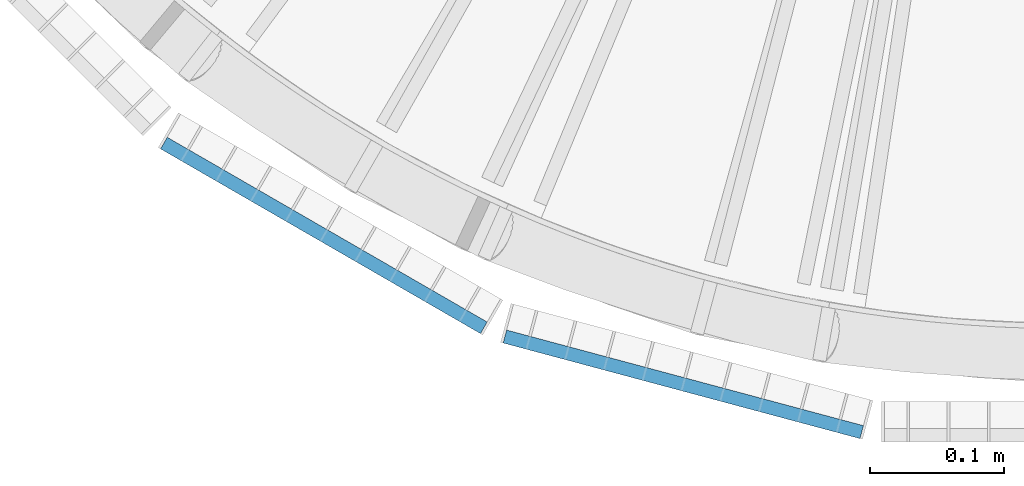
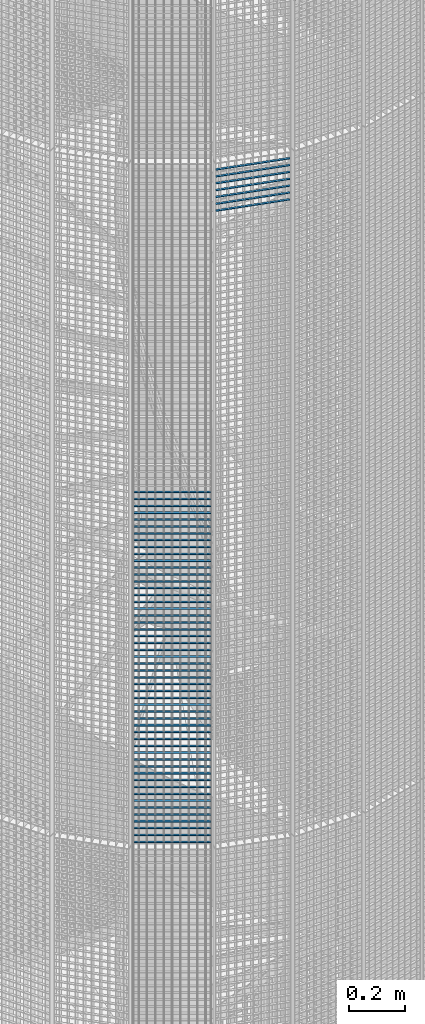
# One storey, part 351 of 1183: 59 beams, 2 elements without a shape of their own.
"""IFC2X3 building model written with IfcOpenShell, lengths in millimetres."""

from ifc_helpers import new_model, si_unit, frame, origin_with_axes, origin_2d_with_axis, place, context, subcontext, project, spatial, rectangle, extrude, material, type_object, element, aggregate, save


model = new_model("IFC2X3")

# Units and contexts
model_context = context("Model", 3, precision=1e-05, world=origin_with_axes())
body_context = subcontext(model_context, "Body", "Model", "MODEL_VIEW")
ifc_project = project(units=[si_unit("LENGTHUNIT", "METRE", prefix="MILLI"), si_unit("AREAUNIT", "SQUARE_METRE"), si_unit("VOLUMEUNIT", "CUBIC_METRE"), si_unit("MASSUNIT", "GRAM", prefix="KILO"), si_unit("TIMEUNIT", "SECOND"), si_unit("PLANEANGLEUNIT", "RADIAN"), si_unit("SOLIDANGLEUNIT", "STERADIAN"), si_unit("THERMODYNAMICTEMPERATUREUNIT", "DEGREE_CELSIUS"), si_unit("LUMINOUSINTENSITYUNIT", "LUMEN")], contexts=[model_context])

# Site, building, storey
site_placement = place(None, origin_with_axes())
site = spatial("IfcSite", under=ifc_project, at=site_placement, Name="Undefined", CompositionType="ELEMENT")
building_placement = place(site_placement, origin_with_axes())
building = spatial("IfcBuilding", under=site, at=building_placement, Name="Undefined", CompositionType="ELEMENT")
storey_placement = place(building_placement, origin_with_axes())
storey = spatial("IfcBuildingStorey", under=building, at=storey_placement, Name="Undefined", CompositionType="ELEMENT", Elevation=0.0)

# Assembly, beams
assembly_1_placement = place(storey_placement, origin_with_axes())
assembly_1 = element("IfcElementAssembly", 1, at=assembly_1_placement, inside=storey, Name="BORDURE", AssemblyPlace="NOTDEFINED", PredefinedType="NOTDEFINED")
ifc_material = material(Name="STEEL/S235JR")
beam_type = type_object("IfcBeamType", Name="PL2*10", PredefinedType="NOTDEFINED")
beam_1_placement = place(assembly_1_placement, frame((21162.7680445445, -1033.29996828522, 13560.0), z_axis=(-0.49999999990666, -0.866025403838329, 0.0), x_axis=(-0.866025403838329, 0.499999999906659, 0.0)))
beam_1 = element("IfcBeam", 2, at=beam_1_placement, type_object=beam_type, material=ifc_material, Name="ENTRETOISE", context=body_context, shape_type="SweptSolid", body=[
    extrude(rectangle(XDim=2.0, YDim=10.0, at=origin_2d_with_axis()), frame((275.999999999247, 9.09494701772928e-13, 1.53210777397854e-14), z_axis=(-1.0, 0.0, 0.0), x_axis=(0.0, -1.0, 0.0)), (0.0, 0.0, 1.0), 276.0),
])
beam_2_placement = place(assembly_1_placement, frame((21162.7680445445, -1033.29996828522, 13530.0), z_axis=(-0.49999999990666, -0.866025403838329, 0.0), x_axis=(-0.866025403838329, 0.499999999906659, 0.0)))
beam_2 = element("IfcBeam", 3, at=beam_2_placement, type_object=beam_type, material=ifc_material, Name="ENTRETOISE", context=body_context, shape_type="SweptSolid", body=[
    extrude(rectangle(XDim=2.0, YDim=10.0, at=origin_2d_with_axis()), frame((275.999999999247, 9.09494701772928e-13, 1.53210777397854e-14), z_axis=(-1.0, 0.0, 0.0), x_axis=(0.0, -1.0, 0.0)), (0.0, 0.0, 1.0), 276.0),
])
beam_3_placement = place(assembly_1_placement, frame((21162.7680445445, -1033.29996828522, 13500.0), z_axis=(-0.49999999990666, -0.866025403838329, 0.0), x_axis=(-0.866025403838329, 0.499999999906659, 0.0)))
beam_3 = element("IfcBeam", 4, at=beam_3_placement, type_object=beam_type, material=ifc_material, Name="ENTRETOISE", context=body_context, shape_type="SweptSolid", body=[
    extrude(rectangle(XDim=2.0, YDim=10.0, at=origin_2d_with_axis()), frame((275.999999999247, 9.09494701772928e-13, 1.53210777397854e-14), z_axis=(-1.0, 0.0, 0.0), x_axis=(0.0, -1.0, 0.0)), (0.0, 0.0, 1.0), 276.0),
])
beam_4_placement = place(assembly_1_placement, frame((21162.7680445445, -1033.29996828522, 13470.0), z_axis=(-0.49999999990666, -0.866025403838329, 0.0), x_axis=(-0.866025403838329, 0.499999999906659, 0.0)))
beam_4 = element("IfcBeam", 5, at=beam_4_placement, type_object=beam_type, material=ifc_material, Name="ENTRETOISE", context=body_context, shape_type="SweptSolid", body=[
    extrude(rectangle(XDim=2.0, YDim=10.0, at=origin_2d_with_axis()), frame((275.999999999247, 9.09494701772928e-13, 1.53210777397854e-14), z_axis=(-1.0, 0.0, 0.0), x_axis=(0.0, -1.0, 0.0)), (0.0, 0.0, 1.0), 276.0),
])
beam_5_placement = place(assembly_1_placement, frame((21162.7680445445, -1033.29996828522, 13440.0), z_axis=(-0.49999999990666, -0.866025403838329, 0.0), x_axis=(-0.866025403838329, 0.499999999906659, 0.0)))
beam_5 = element("IfcBeam", 6, at=beam_5_placement, type_object=beam_type, material=ifc_material, Name="ENTRETOISE", context=body_context, shape_type="SweptSolid", body=[
    extrude(rectangle(XDim=2.0, YDim=10.0, at=origin_2d_with_axis()), frame((275.999999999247, 9.09494701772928e-13, 1.53210777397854e-14), z_axis=(-1.0, 0.0, 0.0), x_axis=(0.0, -1.0, 0.0)), (0.0, 0.0, 1.0), 276.0),
])
beam_6_placement = place(assembly_1_placement, frame((21162.7680445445, -1033.29996828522, 13410.0), z_axis=(-0.49999999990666, -0.866025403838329, 0.0), x_axis=(-0.866025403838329, 0.499999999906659, 0.0)))
beam_6 = element("IfcBeam", 7, at=beam_6_placement, type_object=beam_type, material=ifc_material, Name="ENTRETOISE", context=body_context, shape_type="SweptSolid", body=[
    extrude(rectangle(XDim=2.0, YDim=10.0, at=origin_2d_with_axis()), frame((275.999999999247, 9.09494701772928e-13, 1.53210777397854e-14), z_axis=(-1.0, 0.0, 0.0), x_axis=(0.0, -1.0, 0.0)), (0.0, 0.0, 1.0), 276.0),
])
beam_7_placement = place(assembly_1_placement, frame((21162.7680445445, -1033.29996828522, 13380.0), z_axis=(-0.49999999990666, -0.866025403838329, 0.0), x_axis=(-0.866025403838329, 0.499999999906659, 0.0)))
beam_7 = element("IfcBeam", 8, at=beam_7_placement, type_object=beam_type, material=ifc_material, Name="ENTRETOISE", context=body_context, shape_type="SweptSolid", body=[
    extrude(rectangle(XDim=2.0, YDim=10.0, at=origin_2d_with_axis()), frame((275.999999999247, 9.09494701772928e-13, 1.53210777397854e-14), z_axis=(-1.0, 0.0, 0.0), x_axis=(0.0, -1.0, 0.0)), (0.0, 0.0, 1.0), 276.0),
])
beam_8_placement = place(assembly_1_placement, frame((21162.7680445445, -1033.29996828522, 13350.0), z_axis=(-0.49999999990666, -0.866025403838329, 0.0), x_axis=(-0.866025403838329, 0.499999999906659, 0.0)))
beam_8 = element("IfcBeam", 9, at=beam_8_placement, type_object=beam_type, material=ifc_material, Name="ENTRETOISE", context=body_context, shape_type="SweptSolid", body=[
    extrude(rectangle(XDim=2.0, YDim=10.0, at=origin_2d_with_axis()), frame((275.999999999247, 9.09494701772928e-13, 1.53210777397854e-14), z_axis=(-1.0, 0.0, 0.0), x_axis=(0.0, -1.0, 0.0)), (0.0, 0.0, 1.0), 276.0),
])
beam_9_placement = place(assembly_1_placement, frame((21162.7680445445, -1033.29996828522, 13320.0), z_axis=(-0.49999999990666, -0.866025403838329, 0.0), x_axis=(-0.866025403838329, 0.499999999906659, 0.0)))
beam_9 = element("IfcBeam", 10, at=beam_9_placement, type_object=beam_type, material=ifc_material, Name="ENTRETOISE", context=body_context, shape_type="SweptSolid", body=[
    extrude(rectangle(XDim=2.0, YDim=10.0, at=origin_2d_with_axis()), frame((275.999999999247, 9.09494701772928e-13, 1.53210777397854e-14), z_axis=(-1.0, 0.0, 0.0), x_axis=(0.0, -1.0, 0.0)), (0.0, 0.0, 1.0), 276.0),
])
beam_10_placement = place(assembly_1_placement, frame((21162.7680445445, -1033.29996828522, 13290.0), z_axis=(-0.49999999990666, -0.866025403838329, 0.0), x_axis=(-0.866025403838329, 0.499999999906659, 0.0)))
beam_10 = element("IfcBeam", 11, at=beam_10_placement, type_object=beam_type, material=ifc_material, Name="ENTRETOISE", context=body_context, shape_type="SweptSolid", body=[
    extrude(rectangle(XDim=2.0, YDim=10.0, at=origin_2d_with_axis()), frame((275.999999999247, 9.09494701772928e-13, 1.53210777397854e-14), z_axis=(-1.0, 0.0, 0.0), x_axis=(0.0, -1.0, 0.0)), (0.0, 0.0, 1.0), 276.0),
])
beam_11_placement = place(assembly_1_placement, frame((21162.7680445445, -1033.29996828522, 13260.0), z_axis=(-0.49999999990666, -0.866025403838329, 0.0), x_axis=(-0.866025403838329, 0.499999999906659, 0.0)))
beam_11 = element("IfcBeam", 12, at=beam_11_placement, type_object=beam_type, material=ifc_material, Name="ENTRETOISE", context=body_context, shape_type="SweptSolid", body=[
    extrude(rectangle(XDim=2.0, YDim=10.0, at=origin_2d_with_axis()), frame((275.999999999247, 9.09494701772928e-13, 1.53210777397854e-14), z_axis=(-1.0, 0.0, 0.0), x_axis=(0.0, -1.0, 0.0)), (0.0, 0.0, 1.0), 276.0),
])
beam_12_placement = place(assembly_1_placement, frame((21162.7680445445, -1033.29996828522, 13230.0), z_axis=(-0.49999999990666, -0.866025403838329, 0.0), x_axis=(-0.866025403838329, 0.499999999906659, 0.0)))
beam_12 = element("IfcBeam", 13, at=beam_12_placement, type_object=beam_type, material=ifc_material, Name="ENTRETOISE", context=body_context, shape_type="SweptSolid", body=[
    extrude(rectangle(XDim=2.0, YDim=10.0, at=origin_2d_with_axis()), frame((275.999999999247, 9.09494701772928e-13, 1.53210777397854e-14), z_axis=(-1.0, 0.0, 0.0), x_axis=(0.0, -1.0, 0.0)), (0.0, 0.0, 1.0), 276.0),
])
beam_13_placement = place(assembly_1_placement, frame((21162.7680445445, -1033.29996828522, 13200.0), z_axis=(-0.49999999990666, -0.866025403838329, 0.0), x_axis=(-0.866025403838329, 0.499999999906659, 0.0)))
beam_13 = element("IfcBeam", 14, at=beam_13_placement, type_object=beam_type, material=ifc_material, Name="ENTRETOISE", context=body_context, shape_type="SweptSolid", body=[
    extrude(rectangle(XDim=2.0, YDim=10.0, at=origin_2d_with_axis()), frame((275.999999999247, 9.09494701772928e-13, 1.53210777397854e-14), z_axis=(-1.0, 0.0, 0.0), x_axis=(0.0, -1.0, 0.0)), (0.0, 0.0, 1.0), 276.0),
])
beam_14_placement = place(assembly_1_placement, frame((21162.7680445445, -1033.29996828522, 13170.0), z_axis=(-0.49999999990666, -0.866025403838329, 0.0), x_axis=(-0.866025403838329, 0.499999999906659, 0.0)))
beam_14 = element("IfcBeam", 15, at=beam_14_placement, type_object=beam_type, material=ifc_material, Name="ENTRETOISE", context=body_context, shape_type="SweptSolid", body=[
    extrude(rectangle(XDim=2.0, YDim=10.0, at=origin_2d_with_axis()), frame((275.999999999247, 9.09494701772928e-13, 1.53210777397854e-14), z_axis=(-1.0, 0.0, 0.0), x_axis=(0.0, -1.0, 0.0)), (0.0, 0.0, 1.0), 276.0),
])
beam_15_placement = place(assembly_1_placement, frame((21162.7680445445, -1033.29996828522, 13140.0), z_axis=(-0.49999999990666, -0.866025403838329, 0.0), x_axis=(-0.866025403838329, 0.499999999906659, 0.0)))
beam_15 = element("IfcBeam", 16, at=beam_15_placement, type_object=beam_type, material=ifc_material, Name="ENTRETOISE", context=body_context, shape_type="SweptSolid", body=[
    extrude(rectangle(XDim=2.0, YDim=10.0, at=origin_2d_with_axis()), frame((275.999999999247, 9.09494701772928e-13, 1.53210777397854e-14), z_axis=(-1.0, 0.0, 0.0), x_axis=(0.0, -1.0, 0.0)), (0.0, 0.0, 1.0), 276.0),
])
beam_16_placement = place(assembly_1_placement, frame((21162.7680445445, -1033.29996828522, 12720.0), z_axis=(-0.49999999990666, -0.866025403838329, 0.0), x_axis=(-0.866025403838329, 0.499999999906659, 0.0)))
beam_16 = element("IfcBeam", 17, at=beam_16_placement, type_object=beam_type, material=ifc_material, Name="ENTRETOISE", context=body_context, shape_type="SweptSolid", body=[
    extrude(rectangle(XDim=2.0, YDim=10.0, at=origin_2d_with_axis()), frame((275.999999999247, 9.09494701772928e-13, 1.53210777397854e-14), z_axis=(-1.0, 0.0, 0.0), x_axis=(0.0, -1.0, 0.0)), (0.0, 0.0, 1.0), 276.0),
])
beam_17_placement = place(assembly_1_placement, frame((21162.7680445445, -1033.29996828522, 12690.0), z_axis=(-0.49999999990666, -0.866025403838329, 0.0), x_axis=(-0.866025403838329, 0.499999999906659, 0.0)))
beam_17 = element("IfcBeam", 18, at=beam_17_placement, type_object=beam_type, material=ifc_material, Name="ENTRETOISE", context=body_context, shape_type="SweptSolid", body=[
    extrude(rectangle(XDim=2.0, YDim=10.0, at=origin_2d_with_axis()), frame((275.999999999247, 9.09494701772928e-13, 1.53210777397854e-14), z_axis=(-1.0, 0.0, 0.0), x_axis=(0.0, -1.0, 0.0)), (0.0, 0.0, 1.0), 276.0),
])
beam_18_placement = place(assembly_1_placement, frame((21162.7680445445, -1033.29996828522, 12750.0), z_axis=(-0.49999999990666, -0.866025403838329, 0.0), x_axis=(-0.866025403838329, 0.499999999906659, 0.0)))
beam_18 = element("IfcBeam", 19, at=beam_18_placement, type_object=beam_type, material=ifc_material, Name="ENTRETOISE", context=body_context, shape_type="SweptSolid", body=[
    extrude(rectangle(XDim=2.0, YDim=10.0, at=origin_2d_with_axis()), frame((275.999999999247, 9.09494701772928e-13, 1.53210777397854e-14), z_axis=(-1.0, 0.0, 0.0), x_axis=(0.0, -1.0, 0.0)), (0.0, 0.0, 1.0), 276.0),
])
beam_19_placement = place(assembly_1_placement, frame((21162.7680445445, -1033.29996828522, 12660.0), z_axis=(-0.49999999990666, -0.866025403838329, 0.0), x_axis=(-0.866025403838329, 0.499999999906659, 0.0)))
beam_19 = element("IfcBeam", 20, at=beam_19_placement, type_object=beam_type, material=ifc_material, Name="ENTRETOISE", context=body_context, shape_type="SweptSolid", body=[
    extrude(rectangle(XDim=2.0, YDim=10.0, at=origin_2d_with_axis()), frame((275.999999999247, 9.09494701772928e-13, 1.53210777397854e-14), z_axis=(-1.0, 0.0, 0.0), x_axis=(0.0, -1.0, 0.0)), (0.0, 0.0, 1.0), 276.0),
])
beam_20_placement = place(assembly_1_placement, frame((21162.7680445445, -1033.29996828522, 12630.0), z_axis=(-0.49999999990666, -0.866025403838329, 0.0), x_axis=(-0.866025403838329, 0.499999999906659, 0.0)))
beam_20 = element("IfcBeam", 21, at=beam_20_placement, type_object=beam_type, material=ifc_material, Name="ENTRETOISE", context=body_context, shape_type="SweptSolid", body=[
    extrude(rectangle(XDim=2.0, YDim=10.0, at=origin_2d_with_axis()), frame((275.999999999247, 9.09494701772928e-13, 1.53210777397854e-14), z_axis=(-1.0, 0.0, 0.0), x_axis=(0.0, -1.0, 0.0)), (0.0, 0.0, 1.0), 276.0),
])
beam_21_placement = place(assembly_1_placement, frame((21162.7680445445, -1033.29996828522, 12780.0), z_axis=(-0.49999999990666, -0.866025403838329, 0.0), x_axis=(-0.866025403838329, 0.499999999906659, 0.0)))
beam_21 = element("IfcBeam", 22, at=beam_21_placement, type_object=beam_type, material=ifc_material, Name="ENTRETOISE", context=body_context, shape_type="SweptSolid", body=[
    extrude(rectangle(XDim=2.0, YDim=10.0, at=origin_2d_with_axis()), frame((275.999999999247, 9.09494701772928e-13, 1.53210777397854e-14), z_axis=(-1.0, 0.0, 0.0), x_axis=(0.0, -1.0, 0.0)), (0.0, 0.0, 1.0), 276.0),
])
beam_22_placement = place(assembly_1_placement, frame((21162.7680445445, -1033.29996828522, 12600.0), z_axis=(-0.49999999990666, -0.866025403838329, 0.0), x_axis=(-0.866025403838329, 0.499999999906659, 0.0)))
beam_22 = element("IfcBeam", 23, at=beam_22_placement, type_object=beam_type, material=ifc_material, Name="ENTRETOISE", context=body_context, shape_type="SweptSolid", body=[
    extrude(rectangle(XDim=2.0, YDim=10.0, at=origin_2d_with_axis()), frame((275.999999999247, 9.09494701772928e-13, 1.53210777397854e-14), z_axis=(-1.0, 0.0, 0.0), x_axis=(0.0, -1.0, 0.0)), (0.0, 0.0, 1.0), 276.0),
])
beam_23_placement = place(assembly_1_placement, frame((21162.7680445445, -1033.29996828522, 12810.0), z_axis=(-0.49999999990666, -0.866025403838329, 0.0), x_axis=(-0.866025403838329, 0.499999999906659, 0.0)))
beam_23 = element("IfcBeam", 24, at=beam_23_placement, type_object=beam_type, material=ifc_material, Name="ENTRETOISE", context=body_context, shape_type="SweptSolid", body=[
    extrude(rectangle(XDim=2.0, YDim=10.0, at=origin_2d_with_axis()), frame((275.999999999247, 9.09494701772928e-13, 1.53210777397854e-14), z_axis=(-1.0, 0.0, 0.0), x_axis=(0.0, -1.0, 0.0)), (0.0, 0.0, 1.0), 276.0),
])
beam_24_placement = place(assembly_1_placement, frame((21162.7680445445, -1033.29996828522, 12570.0), z_axis=(-0.49999999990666, -0.866025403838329, 0.0), x_axis=(-0.866025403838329, 0.499999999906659, 0.0)))
beam_24 = element("IfcBeam", 25, at=beam_24_placement, type_object=beam_type, material=ifc_material, Name="ENTRETOISE", context=body_context, shape_type="SweptSolid", body=[
    extrude(rectangle(XDim=2.0, YDim=10.0, at=origin_2d_with_axis()), frame((275.999999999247, 9.09494701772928e-13, 1.53210777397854e-14), z_axis=(-1.0, 0.0, 0.0), x_axis=(0.0, -1.0, 0.0)), (0.0, 0.0, 1.0), 276.0),
])
beam_25_placement = place(assembly_1_placement, frame((21162.7680445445, -1033.29996828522, 12540.0), z_axis=(-0.49999999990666, -0.866025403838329, 0.0), x_axis=(-0.866025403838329, 0.499999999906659, 0.0)))
beam_25 = element("IfcBeam", 26, at=beam_25_placement, type_object=beam_type, material=ifc_material, Name="ENTRETOISE", context=body_context, shape_type="SweptSolid", body=[
    extrude(rectangle(XDim=2.0, YDim=10.0, at=origin_2d_with_axis()), frame((275.999999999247, 9.09494701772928e-13, 1.53210777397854e-14), z_axis=(-1.0, 0.0, 0.0), x_axis=(0.0, -1.0, 0.0)), (0.0, 0.0, 1.0), 276.0),
])
beam_26_placement = place(assembly_1_placement, frame((21162.7680445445, -1033.29996828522, 12840.0), z_axis=(-0.49999999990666, -0.866025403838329, 0.0), x_axis=(-0.866025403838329, 0.499999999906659, 0.0)))
beam_26 = element("IfcBeam", 27, at=beam_26_placement, type_object=beam_type, material=ifc_material, Name="ENTRETOISE", context=body_context, shape_type="SweptSolid", body=[
    extrude(rectangle(XDim=2.0, YDim=10.0, at=origin_2d_with_axis()), frame((275.999999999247, 9.09494701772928e-13, 1.53210777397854e-14), z_axis=(-1.0, 0.0, 0.0), x_axis=(0.0, -1.0, 0.0)), (0.0, 0.0, 1.0), 276.0),
])
beam_27_placement = place(assembly_1_placement, frame((21162.7680445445, -1033.29996828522, 12510.0), z_axis=(-0.49999999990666, -0.866025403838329, 0.0), x_axis=(-0.866025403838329, 0.499999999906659, 0.0)))
beam_27 = element("IfcBeam", 28, at=beam_27_placement, type_object=beam_type, material=ifc_material, Name="ENTRETOISE", context=body_context, shape_type="SweptSolid", body=[
    extrude(rectangle(XDim=2.0, YDim=10.0, at=origin_2d_with_axis()), frame((275.999999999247, 9.09494701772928e-13, 1.53210777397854e-14), z_axis=(-1.0, 0.0, 0.0), x_axis=(0.0, -1.0, 0.0)), (0.0, 0.0, 1.0), 276.0),
])
beam_28_placement = place(assembly_1_placement, frame((21162.7680445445, -1033.29996828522, 12480.0), z_axis=(-0.49999999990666, -0.866025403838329, 0.0), x_axis=(-0.866025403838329, 0.499999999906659, 0.0)))
beam_28 = element("IfcBeam", 29, at=beam_28_placement, type_object=beam_type, material=ifc_material, Name="ENTRETOISE", context=body_context, shape_type="SweptSolid", body=[
    extrude(rectangle(XDim=2.0, YDim=10.0, at=origin_2d_with_axis()), frame((275.999999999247, 9.09494701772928e-13, 1.53210777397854e-14), z_axis=(-1.0, 0.0, 0.0), x_axis=(0.0, -1.0, 0.0)), (0.0, 0.0, 1.0), 276.0),
])
beam_29_placement = place(assembly_1_placement, frame((21162.7680445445, -1033.29996828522, 12870.0), z_axis=(-0.49999999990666, -0.866025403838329, 0.0), x_axis=(-0.866025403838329, 0.499999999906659, 0.0)))
beam_29 = element("IfcBeam", 30, at=beam_29_placement, type_object=beam_type, material=ifc_material, Name="ENTRETOISE", context=body_context, shape_type="SweptSolid", body=[
    extrude(rectangle(XDim=2.0, YDim=10.0, at=origin_2d_with_axis()), frame((275.999999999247, 9.09494701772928e-13, 1.53210777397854e-14), z_axis=(-1.0, 0.0, 0.0), x_axis=(0.0, -1.0, 0.0)), (0.0, 0.0, 1.0), 276.0),
])
beam_30_placement = place(assembly_1_placement, frame((21162.7680445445, -1033.29996828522, 12450.0), z_axis=(-0.49999999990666, -0.866025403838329, 0.0), x_axis=(-0.866025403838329, 0.499999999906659, 0.0)))
beam_30 = element("IfcBeam", 31, at=beam_30_placement, type_object=beam_type, material=ifc_material, Name="ENTRETOISE", context=body_context, shape_type="SweptSolid", body=[
    extrude(rectangle(XDim=2.0, YDim=10.0, at=origin_2d_with_axis()), frame((275.999999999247, 9.09494701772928e-13, 1.53210777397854e-14), z_axis=(-1.0, 0.0, 0.0), x_axis=(0.0, -1.0, 0.0)), (0.0, 0.0, 1.0), 276.0),
])
beam_31_placement = place(assembly_1_placement, frame((21162.7680445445, -1033.29996828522, 12420.0), z_axis=(-0.49999999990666, -0.866025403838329, 0.0), x_axis=(-0.866025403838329, 0.499999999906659, 0.0)))
beam_31 = element("IfcBeam", 32, at=beam_31_placement, type_object=beam_type, material=ifc_material, Name="ENTRETOISE", context=body_context, shape_type="SweptSolid", body=[
    extrude(rectangle(XDim=2.0, YDim=10.0, at=origin_2d_with_axis()), frame((275.999999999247, 9.09494701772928e-13, 1.53210777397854e-14), z_axis=(-1.0, 0.0, 0.0), x_axis=(0.0, -1.0, 0.0)), (0.0, 0.0, 1.0), 276.0),
])
beam_32_placement = place(assembly_1_placement, frame((21162.7680445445, -1033.29996828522, 12900.0), z_axis=(-0.49999999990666, -0.866025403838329, 0.0), x_axis=(-0.866025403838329, 0.499999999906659, 0.0)))
beam_32 = element("IfcBeam", 33, at=beam_32_placement, type_object=beam_type, material=ifc_material, Name="ENTRETOISE", context=body_context, shape_type="SweptSolid", body=[
    extrude(rectangle(XDim=2.0, YDim=10.0, at=origin_2d_with_axis()), frame((275.999999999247, 9.09494701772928e-13, 1.53210777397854e-14), z_axis=(-1.0, 0.0, 0.0), x_axis=(0.0, -1.0, 0.0)), (0.0, 0.0, 1.0), 276.0),
])
beam_33_placement = place(assembly_1_placement, frame((21162.7680445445, -1033.29996828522, 12390.0), z_axis=(-0.49999999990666, -0.866025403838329, 0.0), x_axis=(-0.866025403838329, 0.499999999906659, 0.0)))
beam_33 = element("IfcBeam", 34, at=beam_33_placement, type_object=beam_type, material=ifc_material, Name="ENTRETOISE", context=body_context, shape_type="SweptSolid", body=[
    extrude(rectangle(XDim=2.0, YDim=10.0, at=origin_2d_with_axis()), frame((275.999999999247, 9.09494701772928e-13, 1.53210777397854e-14), z_axis=(-1.0, 0.0, 0.0), x_axis=(0.0, -1.0, 0.0)), (0.0, 0.0, 1.0), 276.0),
])
beam_34_placement = place(assembly_1_placement, frame((21162.7680445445, -1033.29996828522, 12930.0), z_axis=(-0.49999999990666, -0.866025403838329, 0.0), x_axis=(-0.866025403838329, 0.499999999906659, 0.0)))
beam_34 = element("IfcBeam", 35, at=beam_34_placement, type_object=beam_type, material=ifc_material, Name="ENTRETOISE", context=body_context, shape_type="SweptSolid", body=[
    extrude(rectangle(XDim=2.0, YDim=10.0, at=origin_2d_with_axis()), frame((275.999999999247, 9.09494701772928e-13, 1.53210777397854e-14), z_axis=(-1.0, 0.0, 0.0), x_axis=(0.0, -1.0, 0.0)), (0.0, 0.0, 1.0), 276.0),
])
beam_35_placement = place(assembly_1_placement, frame((21162.7680445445, -1033.29996828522, 12360.0), z_axis=(-0.49999999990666, -0.866025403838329, 0.0), x_axis=(-0.866025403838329, 0.499999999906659, 0.0)))
beam_35 = element("IfcBeam", 36, at=beam_35_placement, type_object=beam_type, material=ifc_material, Name="ENTRETOISE", context=body_context, shape_type="SweptSolid", body=[
    extrude(rectangle(XDim=2.0, YDim=10.0, at=origin_2d_with_axis()), frame((275.999999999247, 9.09494701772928e-13, 1.53210777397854e-14), z_axis=(-1.0, 0.0, 0.0), x_axis=(0.0, -1.0, 0.0)), (0.0, 0.0, 1.0), 276.0),
])
beam_36_placement = place(assembly_1_placement, frame((21162.7680445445, -1033.29996828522, 12330.0), z_axis=(-0.49999999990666, -0.866025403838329, 0.0), x_axis=(-0.866025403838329, 0.499999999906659, 0.0)))
beam_36 = element("IfcBeam", 37, at=beam_36_placement, type_object=beam_type, material=ifc_material, Name="ENTRETOISE", context=body_context, shape_type="SweptSolid", body=[
    extrude(rectangle(XDim=2.0, YDim=10.0, at=origin_2d_with_axis()), frame((275.999999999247, 9.09494701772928e-13, 1.53210777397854e-14), z_axis=(-1.0, 0.0, 0.0), x_axis=(0.0, -1.0, 0.0)), (0.0, 0.0, 1.0), 276.0),
])
beam_37_placement = place(assembly_1_placement, frame((21162.7680445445, -1033.29996828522, 12960.0), z_axis=(-0.49999999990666, -0.866025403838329, 0.0), x_axis=(-0.866025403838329, 0.499999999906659, 0.0)))
beam_37 = element("IfcBeam", 38, at=beam_37_placement, type_object=beam_type, material=ifc_material, Name="ENTRETOISE", context=body_context, shape_type="SweptSolid", body=[
    extrude(rectangle(XDim=2.0, YDim=10.0, at=origin_2d_with_axis()), frame((275.999999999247, 9.09494701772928e-13, 1.53210777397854e-14), z_axis=(-1.0, 0.0, 0.0), x_axis=(0.0, -1.0, 0.0)), (0.0, 0.0, 1.0), 276.0),
])
beam_38_placement = place(assembly_1_placement, frame((21162.7680445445, -1033.29996828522, 12300.0), z_axis=(-0.49999999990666, -0.866025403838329, 0.0), x_axis=(-0.866025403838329, 0.499999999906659, 0.0)))
beam_38 = element("IfcBeam", 39, at=beam_38_placement, type_object=beam_type, material=ifc_material, Name="ENTRETOISE", context=body_context, shape_type="SweptSolid", body=[
    extrude(rectangle(XDim=2.0, YDim=10.0, at=origin_2d_with_axis()), frame((275.999999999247, 9.09494701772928e-13, 1.53210777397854e-14), z_axis=(-1.0, 0.0, 0.0), x_axis=(0.0, -1.0, 0.0)), (0.0, 0.0, 1.0), 276.0),
])
beam_39_placement = place(assembly_1_placement, frame((21162.7680445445, -1033.29996828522, 12270.0), z_axis=(-0.49999999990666, -0.866025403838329, 0.0), x_axis=(-0.866025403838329, 0.499999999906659, 0.0)))
beam_39 = element("IfcBeam", 40, at=beam_39_placement, type_object=beam_type, material=ifc_material, Name="ENTRETOISE", context=body_context, shape_type="SweptSolid", body=[
    extrude(rectangle(XDim=2.0, YDim=10.0, at=origin_2d_with_axis()), frame((275.999999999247, 9.09494701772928e-13, 1.53210777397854e-14), z_axis=(-1.0, 0.0, 0.0), x_axis=(0.0, -1.0, 0.0)), (0.0, 0.0, 1.0), 276.0),
])
beam_40_placement = place(assembly_1_placement, frame((21162.7680445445, -1033.29996828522, 12990.0), z_axis=(-0.49999999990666, -0.866025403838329, 0.0), x_axis=(-0.866025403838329, 0.499999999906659, 0.0)))
beam_40 = element("IfcBeam", 41, at=beam_40_placement, type_object=beam_type, material=ifc_material, Name="ENTRETOISE", context=body_context, shape_type="SweptSolid", body=[
    extrude(rectangle(XDim=2.0, YDim=10.0, at=origin_2d_with_axis()), frame((275.999999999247, 9.09494701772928e-13, 1.53210777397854e-14), z_axis=(-1.0, 0.0, 0.0), x_axis=(0.0, -1.0, 0.0)), (0.0, 0.0, 1.0), 276.0),
])
beam_41_placement = place(assembly_1_placement, frame((21162.7680445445, -1033.29996828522, 12240.0), z_axis=(-0.49999999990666, -0.866025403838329, 0.0), x_axis=(-0.866025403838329, 0.499999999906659, 0.0)))
beam_41 = element("IfcBeam", 42, at=beam_41_placement, type_object=beam_type, material=ifc_material, Name="ENTRETOISE", context=body_context, shape_type="SweptSolid", body=[
    extrude(rectangle(XDim=2.0, YDim=10.0, at=origin_2d_with_axis()), frame((275.999999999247, 9.09494701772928e-13, 1.53210777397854e-14), z_axis=(-1.0, 0.0, 0.0), x_axis=(0.0, -1.0, 0.0)), (0.0, 0.0, 1.0), 276.0),
])
beam_42_placement = place(assembly_1_placement, frame((21162.7680445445, -1033.29996828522, 13020.0), z_axis=(-0.49999999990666, -0.866025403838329, 0.0), x_axis=(-0.866025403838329, 0.499999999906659, 0.0)))
beam_42 = element("IfcBeam", 43, at=beam_42_placement, type_object=beam_type, material=ifc_material, Name="ENTRETOISE", context=body_context, shape_type="SweptSolid", body=[
    extrude(rectangle(XDim=2.0, YDim=10.0, at=origin_2d_with_axis()), frame((275.999999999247, 9.09494701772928e-13, 1.53210777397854e-14), z_axis=(-1.0, 0.0, 0.0), x_axis=(0.0, -1.0, 0.0)), (0.0, 0.0, 1.0), 276.0),
])
beam_43_placement = place(assembly_1_placement, frame((21162.7680445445, -1033.29996828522, 12210.0), z_axis=(-0.49999999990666, -0.866025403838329, 0.0), x_axis=(-0.866025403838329, 0.499999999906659, 0.0)))
beam_43 = element("IfcBeam", 44, at=beam_43_placement, type_object=beam_type, material=ifc_material, Name="ENTRETOISE", context=body_context, shape_type="SweptSolid", body=[
    extrude(rectangle(XDim=2.0, YDim=10.0, at=origin_2d_with_axis()), frame((275.999999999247, 9.09494701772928e-13, 1.53210777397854e-14), z_axis=(-1.0, 0.0, 0.0), x_axis=(0.0, -1.0, 0.0)), (0.0, 0.0, 1.0), 276.0),
])
beam_44_placement = place(assembly_1_placement, frame((21162.7680445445, -1033.29996828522, 12180.0), z_axis=(-0.49999999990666, -0.866025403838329, 0.0), x_axis=(-0.866025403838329, 0.499999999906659, 0.0)))
beam_44 = element("IfcBeam", 45, at=beam_44_placement, type_object=beam_type, material=ifc_material, Name="ENTRETOISE", context=body_context, shape_type="SweptSolid", body=[
    extrude(rectangle(XDim=2.0, YDim=10.0, at=origin_2d_with_axis()), frame((275.999999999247, 9.09494701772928e-13, 1.53210777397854e-14), z_axis=(-1.0, 0.0, 0.0), x_axis=(0.0, -1.0, 0.0)), (0.0, 0.0, 1.0), 276.0),
])
beam_45_placement = place(assembly_1_placement, frame((21162.7680445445, -1033.29996828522, 13050.0), z_axis=(-0.49999999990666, -0.866025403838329, 0.0), x_axis=(-0.866025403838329, 0.499999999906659, 0.0)))
beam_45 = element("IfcBeam", 46, at=beam_45_placement, type_object=beam_type, material=ifc_material, Name="ENTRETOISE", context=body_context, shape_type="SweptSolid", body=[
    extrude(rectangle(XDim=2.0, YDim=10.0, at=origin_2d_with_axis()), frame((275.999999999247, 9.09494701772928e-13, 1.53210777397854e-14), z_axis=(-1.0, 0.0, 0.0), x_axis=(0.0, -1.0, 0.0)), (0.0, 0.0, 1.0), 276.0),
])
beam_46_placement = place(assembly_1_placement, frame((21162.7680445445, -1033.29996828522, 12150.0), z_axis=(-0.49999999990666, -0.866025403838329, 0.0), x_axis=(-0.866025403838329, 0.499999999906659, 0.0)))
beam_46 = element("IfcBeam", 47, at=beam_46_placement, type_object=beam_type, material=ifc_material, Name="ENTRETOISE", context=body_context, shape_type="SweptSolid", body=[
    extrude(rectangle(XDim=2.0, YDim=10.0, at=origin_2d_with_axis()), frame((275.999999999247, 9.09494701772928e-13, 1.53210777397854e-14), z_axis=(-1.0, 0.0, 0.0), x_axis=(0.0, -1.0, 0.0)), (0.0, 0.0, 1.0), 276.0),
])
beam_47_placement = place(assembly_1_placement, frame((21162.7680445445, -1033.29996828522, 12120.0), z_axis=(-0.49999999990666, -0.866025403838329, 0.0), x_axis=(-0.866025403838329, 0.499999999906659, 0.0)))
beam_47 = element("IfcBeam", 48, at=beam_47_placement, type_object=beam_type, material=ifc_material, Name="ENTRETOISE", context=body_context, shape_type="SweptSolid", body=[
    extrude(rectangle(XDim=2.0, YDim=10.0, at=origin_2d_with_axis()), frame((275.999999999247, 9.09494701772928e-13, 1.53210777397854e-14), z_axis=(-1.0, 0.0, 0.0), x_axis=(0.0, -1.0, 0.0)), (0.0, 0.0, 1.0), 276.0),
])
beam_48_placement = place(assembly_1_placement, frame((21162.7680445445, -1033.29996828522, 13080.0), z_axis=(-0.49999999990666, -0.866025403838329, 0.0), x_axis=(-0.866025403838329, 0.499999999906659, 0.0)))
beam_48 = element("IfcBeam", 49, at=beam_48_placement, type_object=beam_type, material=ifc_material, Name="ENTRETOISE", context=body_context, shape_type="SweptSolid", body=[
    extrude(rectangle(XDim=2.0, YDim=10.0, at=origin_2d_with_axis()), frame((275.999999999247, 9.09494701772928e-13, 1.53210777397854e-14), z_axis=(-1.0, 0.0, 0.0), x_axis=(0.0, -1.0, 0.0)), (0.0, 0.0, 1.0), 276.0),
])
beam_49_placement = place(assembly_1_placement, frame((21162.7680445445, -1033.29996828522, 12090.0), z_axis=(-0.49999999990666, -0.866025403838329, 0.0), x_axis=(-0.866025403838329, 0.499999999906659, 0.0)))
beam_49 = element("IfcBeam", 50, at=beam_49_placement, type_object=beam_type, material=ifc_material, Name="ENTRETOISE", context=body_context, shape_type="SweptSolid", body=[
    extrude(rectangle(XDim=2.0, YDim=10.0, at=origin_2d_with_axis()), frame((275.999999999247, 9.09494701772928e-13, 1.53210777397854e-14), z_axis=(-1.0, 0.0, 0.0), x_axis=(0.0, -1.0, 0.0)), (0.0, 0.0, 1.0), 276.0),
])
beam_50_placement = place(assembly_1_placement, frame((21162.7680445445, -1033.29996828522, 12060.0), z_axis=(-0.49999999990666, -0.866025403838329, 0.0), x_axis=(-0.866025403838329, 0.499999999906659, 0.0)))
beam_50 = element("IfcBeam", 51, at=beam_50_placement, type_object=beam_type, material=ifc_material, Name="ENTRETOISE", context=body_context, shape_type="SweptSolid", body=[
    extrude(rectangle(XDim=2.0, YDim=10.0, at=origin_2d_with_axis()), frame((275.999999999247, 9.09494701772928e-13, 1.53210777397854e-14), z_axis=(-1.0, 0.0, 0.0), x_axis=(0.0, -1.0, 0.0)), (0.0, 0.0, 1.0), 276.0),
])
beam_51_placement = place(assembly_1_placement, frame((21162.7680445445, -1033.29996828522, 13110.0), z_axis=(-0.49999999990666, -0.866025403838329, 0.0), x_axis=(-0.866025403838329, 0.499999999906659, 0.0)))
beam_51 = element("IfcBeam", 52, at=beam_51_placement, type_object=beam_type, material=ifc_material, Name="ENTRETOISE", context=body_context, shape_type="SweptSolid", body=[
    extrude(rectangle(XDim=2.0, YDim=10.0, at=origin_2d_with_axis()), frame((275.999999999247, 9.09494701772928e-13, 1.53210777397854e-14), z_axis=(-1.0, 0.0, 0.0), x_axis=(0.0, -1.0, 0.0)), (0.0, 0.0, 1.0), 276.0),
])
beam_52_placement = place(assembly_1_placement, frame((21162.7680445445, -1033.29996828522, 12030.0), z_axis=(-0.49999999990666, -0.866025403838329, 0.0), x_axis=(-0.866025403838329, 0.499999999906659, 0.0)))
beam_52 = element("IfcBeam", 53, at=beam_52_placement, type_object=beam_type, material=ifc_material, Name="ENTRETOISE", context=body_context, shape_type="SweptSolid", body=[
    extrude(rectangle(XDim=2.0, YDim=10.0, at=origin_2d_with_axis()), frame((275.999999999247, 9.09494701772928e-13, 1.53210777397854e-14), z_axis=(-1.0, 0.0, 0.0), x_axis=(0.0, -1.0, 0.0)), (0.0, 0.0, 1.0), 276.0),
])
aggregate(assembly_1, [beam_1, beam_2, beam_3, beam_4, beam_5, beam_6, beam_7, beam_8, beam_9, beam_10, beam_11, beam_12, beam_13, beam_14, beam_15, beam_16, beam_17, beam_18, beam_19, beam_20, beam_21, beam_22, beam_23, beam_24, beam_25, beam_26, beam_27, beam_28, beam_29, beam_30, beam_31, beam_32, beam_33, beam_34, beam_35, beam_36, beam_37, beam_38, beam_39, beam_40, beam_41, beam_42, beam_43, beam_44, beam_45, beam_46, beam_47, beam_48, beam_49, beam_50, beam_51, beam_52])

assembly_2_placement = place(storey_placement, origin_with_axes())
assembly_2 = element("IfcElementAssembly", 54, at=assembly_2_placement, inside=storey, Name="BORDURE", AssemblyPlace="NOTDEFINED", PredefinedType="NOTDEFINED")
beam_53_placement = place(assembly_2_placement, frame((21445.1040732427, -1111.25508286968, 14970.0), z_axis=(-0.258819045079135, -0.965925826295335, 0.0), x_axis=(-0.965925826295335, 0.258819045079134, 0.0)))
beam_53 = element("IfcBeam", 55, at=beam_53_placement, type_object=beam_type, material=ifc_material, Name="ENTRETOISE", context=body_context, shape_type="SweptSolid", body=[
    extrude(rectangle(XDim=2.0, YDim=10.0, at=origin_2d_with_axis()), frame((275.999999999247, 9.09494701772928e-13, 1.53210777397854e-14), z_axis=(-1.0, 0.0, 0.0), x_axis=(0.0, -1.0, 0.0)), (0.0, 0.0, 1.0), 276.0),
])
beam_54_placement = place(assembly_2_placement, frame((21445.1040732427, -1111.25508286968, 14940.0), z_axis=(-0.258819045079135, -0.965925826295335, 0.0), x_axis=(-0.965925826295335, 0.258819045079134, 0.0)))
beam_54 = element("IfcBeam", 56, at=beam_54_placement, type_object=beam_type, material=ifc_material, Name="ENTRETOISE", context=body_context, shape_type="SweptSolid", body=[
    extrude(rectangle(XDim=2.0, YDim=10.0, at=origin_2d_with_axis()), frame((275.999999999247, 9.09494701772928e-13, 1.53210777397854e-14), z_axis=(-1.0, 0.0, 0.0), x_axis=(0.0, -1.0, 0.0)), (0.0, 0.0, 1.0), 276.0),
])
beam_55_placement = place(assembly_2_placement, frame((21445.1040732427, -1111.25508286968, 14910.0), z_axis=(-0.258819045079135, -0.965925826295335, 0.0), x_axis=(-0.965925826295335, 0.258819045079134, 0.0)))
beam_55 = element("IfcBeam", 57, at=beam_55_placement, type_object=beam_type, material=ifc_material, Name="ENTRETOISE", context=body_context, shape_type="SweptSolid", body=[
    extrude(rectangle(XDim=2.0, YDim=10.0, at=origin_2d_with_axis()), frame((275.999999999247, 9.09494701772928e-13, 1.53210777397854e-14), z_axis=(-1.0, 0.0, 0.0), x_axis=(0.0, -1.0, 0.0)), (0.0, 0.0, 1.0), 276.0),
])
beam_56_placement = place(assembly_2_placement, frame((21445.1040732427, -1111.25508286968, 14880.0), z_axis=(-0.258819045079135, -0.965925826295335, 0.0), x_axis=(-0.965925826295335, 0.258819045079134, 0.0)))
beam_56 = element("IfcBeam", 58, at=beam_56_placement, type_object=beam_type, material=ifc_material, Name="ENTRETOISE", context=body_context, shape_type="SweptSolid", body=[
    extrude(rectangle(XDim=2.0, YDim=10.0, at=origin_2d_with_axis()), frame((275.999999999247, 9.09494701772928e-13, 1.53210777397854e-14), z_axis=(-1.0, 0.0, 0.0), x_axis=(0.0, -1.0, 0.0)), (0.0, 0.0, 1.0), 276.0),
])
beam_57_placement = place(assembly_2_placement, frame((21445.1040732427, -1111.25508286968, 14850.0), z_axis=(-0.258819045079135, -0.965925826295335, 0.0), x_axis=(-0.965925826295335, 0.258819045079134, 0.0)))
beam_57 = element("IfcBeam", 59, at=beam_57_placement, type_object=beam_type, material=ifc_material, Name="ENTRETOISE", context=body_context, shape_type="SweptSolid", body=[
    extrude(rectangle(XDim=2.0, YDim=10.0, at=origin_2d_with_axis()), frame((275.999999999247, 9.09494701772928e-13, 1.53210777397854e-14), z_axis=(-1.0, 0.0, 0.0), x_axis=(0.0, -1.0, 0.0)), (0.0, 0.0, 1.0), 276.0),
])
beam_58_placement = place(assembly_2_placement, frame((21445.1040732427, -1111.25508286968, 14820.0), z_axis=(-0.258819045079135, -0.965925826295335, 0.0), x_axis=(-0.965925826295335, 0.258819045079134, 0.0)))
beam_58 = element("IfcBeam", 60, at=beam_58_placement, type_object=beam_type, material=ifc_material, Name="ENTRETOISE", context=body_context, shape_type="SweptSolid", body=[
    extrude(rectangle(XDim=2.0, YDim=10.0, at=origin_2d_with_axis()), frame((275.999999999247, 9.09494701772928e-13, 1.53210777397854e-14), z_axis=(-1.0, 0.0, 0.0), x_axis=(0.0, -1.0, 0.0)), (0.0, 0.0, 1.0), 276.0),
])
beam_59_placement = place(assembly_2_placement, frame((21445.1040732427, -1111.25508286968, 14790.0), z_axis=(-0.258819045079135, -0.965925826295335, 0.0), x_axis=(-0.965925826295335, 0.258819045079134, 0.0)))
beam_59 = element("IfcBeam", 61, at=beam_59_placement, type_object=beam_type, material=ifc_material, Name="ENTRETOISE", context=body_context, shape_type="SweptSolid", body=[
    extrude(rectangle(XDim=2.0, YDim=10.0, at=origin_2d_with_axis()), frame((275.999999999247, 9.09494701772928e-13, 1.53210777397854e-14), z_axis=(-1.0, 0.0, 0.0), x_axis=(0.0, -1.0, 0.0)), (0.0, 0.0, 1.0), 276.0),
])
aggregate(assembly_2, [beam_53, beam_54, beam_55, beam_56, beam_57, beam_58, beam_59])

save(model, "model.ifc")
